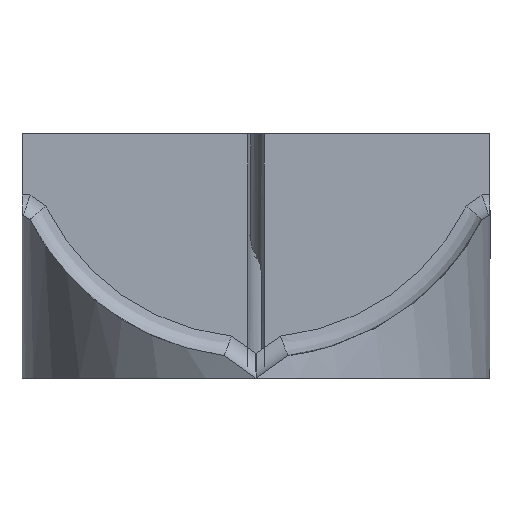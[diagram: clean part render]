
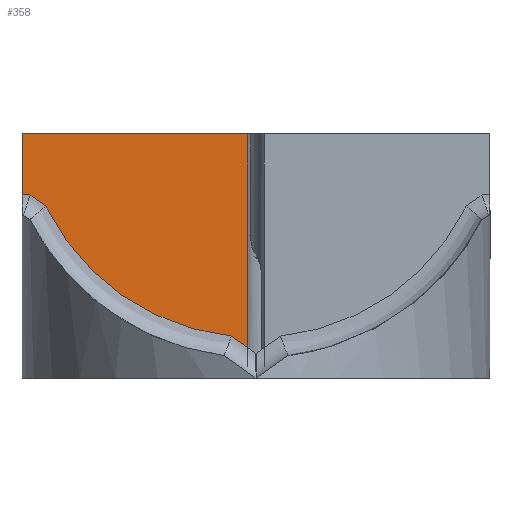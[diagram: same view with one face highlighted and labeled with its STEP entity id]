
A CAD part, left-side view. The second image highlights one B-rep face of the part: STEP entity #358.
In plain terms, the highlighted planar face has unit normal (-1, 0, 0).
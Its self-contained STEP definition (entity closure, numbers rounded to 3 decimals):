
#18 = VERTEX_POINT ( 'NONE', #595 ) ;
#59 = AXIS2_PLACEMENT_3D ( 'NONE', #3523, #3481, #3466 ) ;
#116 = CARTESIAN_POINT ( 'NONE',  ( -16.5, 11.5, 0. ) ) ;
#175 = EDGE_CURVE ( 'NONE', #4151, #2917, #2462, .T. ) ;
#231 = CARTESIAN_POINT ( 'NONE',  ( -16.5, 10.094, -4.01 ) ) ;
#252 = CARTESIAN_POINT ( 'NONE',  ( -16.5, 4.939, -8.931 ) ) ;
#270 = CARTESIAN_POINT ( 'NONE',  ( -16.5, 1.785, -9.861 ) ) ;
#358 = ADVANCED_FACE ( 'NONE', ( #3027 ), #1141, .T. ) ;
#448 = EDGE_CURVE ( 'NONE', #3045, #2238, #1925, .T. ) ;
#517 = DIRECTION ( 'NONE',  ( 0., 0., 1. ) ) ;
#544 = CARTESIAN_POINT ( 'NONE',  ( -16.5, 10.34, -3.539 ) ) ;
#552 = VECTOR ( 'NONE', #2481, 1000. ) ;
#572 = CARTESIAN_POINT ( 'NONE',  ( -16.5, 10.023, -4.139 ) ) ;
#591 = EDGE_CURVE ( 'NONE', #3921, #4058, #4128, .T. ) ;
#594 = CARTESIAN_POINT ( 'NONE',  ( -16.5, 3.459, -9.472 ) ) ;
#595 = CARTESIAN_POINT ( 'NONE',  ( -16.5, 1.198, -9.94 ) ) ;
#610 = CARTESIAN_POINT ( 'NONE',  ( -16.5, 1.625, -9.884 ) ) ;
#625 = VECTOR ( 'NONE', #517, 1000. ) ;
#662 = LINE ( 'NONE', #4015, #552 ) ;
#885 = ORIENTED_EDGE ( 'NONE', *, *, #448, .T. ) ;
#899 = CARTESIAN_POINT ( 'NONE',  ( -16.5, 10.304, -3.609 ) ) ;
#931 = CARTESIAN_POINT ( 'NONE',  ( -16.5, 9.935, -4.293 ) ) ;
#947 = CARTESIAN_POINT ( 'NONE',  ( -16.5, 2.876, -9.635 ) ) ;
#964 = CARTESIAN_POINT ( 'NONE',  ( -16.5, 1.585, -9.89 ) ) ;
#973 = VECTOR ( 'NONE', #3914, 1000. ) ;
#1141 = PLANE ( 'NONE',  #59 ) ;
#1160 = ORIENTED_EDGE ( 'NONE', *, *, #591, .F. ) ;
#1197 = DIRECTION ( 'NONE',  ( 0., -0.819, -0.574 ) ) ;
#1265 = CARTESIAN_POINT ( 'NONE',  ( -16.5, 10.256, -3.703 ) ) ;
#1286 = CARTESIAN_POINT ( 'NONE',  ( -16.5, 9.747, -4.603 ) ) ;
#1303 = CARTESIAN_POINT ( 'NONE',  ( -16.5, 2.521, -9.721 ) ) ;
#1319 = CARTESIAN_POINT ( 'NONE',  ( -16.5, 1.572, -9.892 ) ) ;
#1394 = EDGE_CURVE ( 'NONE', #3045, #3921, #662, .T. ) ;
#1623 = DIRECTION ( 'NONE',  ( 0., -1., 0. ) ) ;
#1626 = CARTESIAN_POINT ( 'NONE',  ( -16.5, 10.188, -3.834 ) ) ;
#1642 = CARTESIAN_POINT ( 'NONE',  ( -16.5, 9.349, -5.214 ) ) ;
#1656 = CARTESIAN_POINT ( 'NONE',  ( -16.5, 2.135, -9.801 ) ) ;
#1676 = CARTESIAN_POINT ( 'NONE',  ( -16.5, 1.355, -9.921 ) ) ;
#1717 = VECTOR ( 'NONE', #4311, 1000. ) ;
#1756 = CARTESIAN_POINT ( 'NONE',  ( -16.5, 0.4, 0. ) ) ;
#1813 = ORIENTED_EDGE ( 'NONE', *, *, #3553, .T. ) ;
#1890 = LINE ( 'NONE', #3869, #973 ) ;
#1925 = LINE ( 'NONE', #3776, #3569 ) ;
#1942 = LINE ( 'NONE', #3596, #3690 ) ;
#1958 = CARTESIAN_POINT ( 'NONE',  ( -16.5, 10.174, -3.861 ) ) ;
#1973 = CARTESIAN_POINT ( 'NONE',  ( -16.5, 8.113, -6.708 ) ) ;
#1996 = CARTESIAN_POINT ( 'NONE',  ( -16.5, 1.986, -9.827 ) ) ;
#2238 = VERTEX_POINT ( 'NONE', #3364 ) ;
#2300 = CARTESIAN_POINT ( 'NONE',  ( -16.5, 10.138, -3.928 ) ) ;
#2315 = CARTESIAN_POINT ( 'NONE',  ( -16.5, 5.802, -8.477 ) ) ;
#2329 = CARTESIAN_POINT ( 'NONE',  ( -16.5, 1.872, -9.847 ) ) ;
#2397 = ORIENTED_EDGE ( 'NONE', *, *, #4054, .F. ) ;
#2399 = ORIENTED_EDGE ( 'NONE', *, *, #3908, .T. ) ;
#2462 = LINE ( 'NONE', #4285, #625 ) ;
#2481 = DIRECTION ( 'NONE',  ( 0., 1., 0. ) ) ;
#2504 = EDGE_LOOP ( 'NONE', ( #885, #2399, #1813, #2816, #2397, #1160, #4161 ) ) ;
#2636 = CARTESIAN_POINT ( 'NONE',  ( -16.5, 10.051, -4.088 ) ) ;
#2651 = CARTESIAN_POINT ( 'NONE',  ( -16.5, 3.803, -9.356 ) ) ;
#2671 = CARTESIAN_POINT ( 'NONE',  ( -16.5, 1.679, -9.877 ) ) ;
#2698 = B_SPLINE_CURVE_WITH_KNOTS ( 'NONE', 3,
 ( #544, #899, #1265, #3599, #1626, #3917, #1958, #4258, #2300, #231, #2636, #572, #2971, #931, #3297, #1286, #3615, #1642, #3932, #1973, #4276, #2315, #252, #2651, #594, #2990, #947, #3312, #1303, #3633, #1656, #3946, #1996, #4294, #2329, #270, #2671, #610, #3005, #964, #3328, #1319, #3645, #1676, #3963 ),
 .UNSPECIFIED., .F., .F.,
 ( 4, 1, 1, 1, 2, 2, 1, 2, 2, 2, 2, 2, 2, 2, 1, 2, 2, 1, 1, 2, 2, 1, 1, 1, 1, 2, 2, 4 ),
 ( 0., 0.016, 0.023, 0.027, 0.029, 0.031, 0.047, 0.055, 0.063, 0.094, 0.125, 0.25, 0.5, 0.75, 0.813, 0.844, 0.875, 0.906, 0.922, 0.93, 0.937, 0.953, 0.961, 0.965, 0.967, 0.968, 0.969, 1. ),
 .UNSPECIFIED. ) ;
#2816 = ORIENTED_EDGE ( 'NONE', *, *, #175, .T. ) ;
#2917 = VERTEX_POINT ( 'NONE', #1756 ) ;
#2945 = CARTESIAN_POINT ( 'NONE',  ( -16.5, 0.4, -10.499 ) ) ;
#2955 = CARTESIAN_POINT ( 'NONE',  ( -16.5, 11.5, -3. ) ) ;
#2971 = CARTESIAN_POINT ( 'NONE',  ( -16.5, 10.009, -4.163 ) ) ;
#2990 = CARTESIAN_POINT ( 'NONE',  ( -16.5, 3.11, -9.572 ) ) ;
#3005 = CARTESIAN_POINT ( 'NONE',  ( -16.5, 1.597, -9.888 ) ) ;
#3027 = FACE_OUTER_BOUND ( 'NONE', #2504, .T. ) ;
#3033 = CARTESIAN_POINT ( 'NONE',  ( -16.5, 11.5, 0. ) ) ;
#3045 = VERTEX_POINT ( 'NONE', #3131 ) ;
#3131 = CARTESIAN_POINT ( 'NONE',  ( -16.5, 11.11, -3. ) ) ;
#3297 = CARTESIAN_POINT ( 'NONE',  ( -16.5, 9.874, -4.396 ) ) ;
#3312 = CARTESIAN_POINT ( 'NONE',  ( -16.5, 2.76, -9.665 ) ) ;
#3328 = CARTESIAN_POINT ( 'NONE',  ( -16.5, 1.578, -9.891 ) ) ;
#3364 = CARTESIAN_POINT ( 'NONE',  ( -16.5, 10.34, -3.539 ) ) ;
#3466 = DIRECTION ( 'NONE',  ( 0., 0., 1. ) ) ;
#3481 = DIRECTION ( 'NONE',  ( -1., 0., 0. ) ) ;
#3523 = CARTESIAN_POINT ( 'NONE',  ( -16.5, 0.4, -10.499 ) ) ;
#3553 = EDGE_CURVE ( 'NONE', #18, #4151, #1890, .T. ) ;
#3569 = VECTOR ( 'NONE', #1197, 1000. ) ;
#3596 = CARTESIAN_POINT ( 'NONE',  ( -16.5, 11.5, 0. ) ) ;
#3599 = CARTESIAN_POINT ( 'NONE',  ( -16.5, 10.209, -3.793 ) ) ;
#3615 = CARTESIAN_POINT ( 'NONE',  ( -16.5, 9.681, -4.708 ) ) ;
#3633 = CARTESIAN_POINT ( 'NONE',  ( -16.5, 2.342, -9.76 ) ) ;
#3645 = CARTESIAN_POINT ( 'NONE',  ( -16.5, 1.479, -9.905 ) ) ;
#3690 = VECTOR ( 'NONE', #1623, 1000. ) ;
#3776 = CARTESIAN_POINT ( 'NONE',  ( -16.5, 11.11, -3. ) ) ;
#3869 = CARTESIAN_POINT ( 'NONE',  ( -16.5, 1.198, -9.94 ) ) ;
#3908 = EDGE_CURVE ( 'NONE', #2238, #18, #2698, .T. ) ;
#3914 = DIRECTION ( 'NONE',  ( 0., -0.819, -0.574 ) ) ;
#3917 = CARTESIAN_POINT ( 'NONE',  ( -16.5, 10.179, -3.85 ) ) ;
#3921 = VERTEX_POINT ( 'NONE', #2955 ) ;
#3932 = CARTESIAN_POINT ( 'NONE',  ( -16.5, 9.058, -5.602 ) ) ;
#3946 = CARTESIAN_POINT ( 'NONE',  ( -16.5, 2.046, -9.817 ) ) ;
#3963 = CARTESIAN_POINT ( 'NONE',  ( -16.5, 1.198, -9.94 ) ) ;
#4015 = CARTESIAN_POINT ( 'NONE',  ( -16.5, 11.11, -3. ) ) ;
#4054 = EDGE_CURVE ( 'NONE', #4058, #2917, #1942, .T. ) ;
#4058 = VERTEX_POINT ( 'NONE', #116 ) ;
#4128 = LINE ( 'NONE', #3033, #1717 ) ;
#4151 = VERTEX_POINT ( 'NONE', #2945 ) ;
#4161 = ORIENTED_EDGE ( 'NONE', *, *, #1394, .F. ) ;
#4258 = CARTESIAN_POINT ( 'NONE',  ( -16.5, 10.172, -3.864 ) ) ;
#4276 = CARTESIAN_POINT ( 'NONE',  ( -16.5, 7.39, -7.364 ) ) ;
#4285 = CARTESIAN_POINT ( 'NONE',  ( -16.5, 0.4, -10.499 ) ) ;
#4294 = CARTESIAN_POINT ( 'NONE',  ( -16.5, 1.955, -9.833 ) ) ;
#4311 = DIRECTION ( 'NONE',  ( 0., 0., 1. ) ) ;
